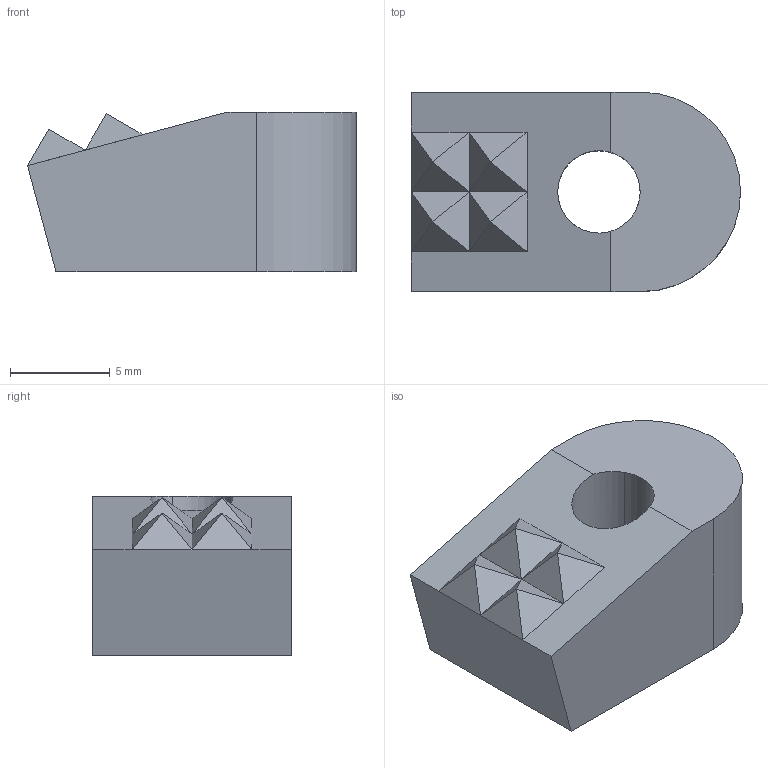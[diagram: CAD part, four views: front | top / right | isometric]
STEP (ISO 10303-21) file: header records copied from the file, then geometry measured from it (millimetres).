
FILE_DESCRIPTION(('CATIA V5 STEP'),'2;1');
FILE_NAME('\\Kjf-102\KJF_TC\Hydraulic_Clamp\Standard\TOGGLE PAD\CP-42\CP-42_-.stp','2020-03-23T23:46:18+00:00',('none'),('none'),'CATIA Version 5 Release 19 SP 6 (IN-10)','CATIA V5 STEP AP214','none');
FILE_SCHEMA(('AUTOMOTIVE_DESIGN { 1 0 10303 214 1 1 1 1 }'));
Length unit declared in the file: millimetre
Products named in the file (1): CP-42_-
Bounding box: 16.5 x 10 x 8 mm (x, y, z)
Volume: 952.8 mm3; surface area: 724.8 mm2
Topology: 1 solids, 1 shells, 28 faces, 59 edges, 33 vertices
Faces by surface type: plane 23, cylinder 5
Entity records: 695 total; most frequent: CARTESIAN_POINT 123, ORIENTED_EDGE 118, DIRECTION 93, EDGE_CURVE 59, VECTOR 47, LINE 47, VERTEX_POINT 33, EDGE_LOOP 30
